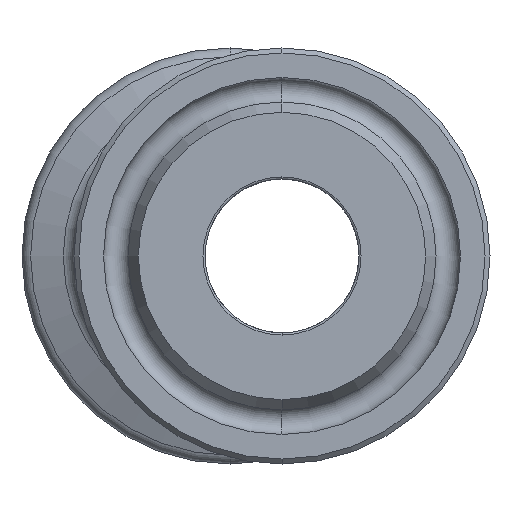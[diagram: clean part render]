
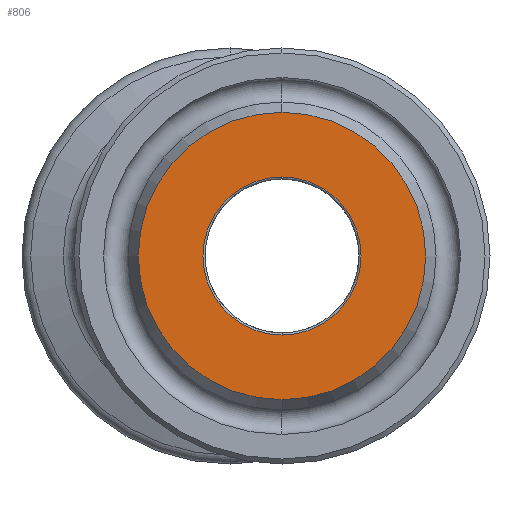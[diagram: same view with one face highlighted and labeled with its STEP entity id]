
A CAD part, left-side view. The second image highlights one B-rep face of the part: STEP entity #806.
In plain terms, the highlighted planar face has unit normal (-1, 0, 0).
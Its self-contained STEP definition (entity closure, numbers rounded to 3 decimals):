
#70 = CARTESIAN_POINT ( 'NONE',  ( 0.8, -3.175, 0. ) ) ;
#82 = DIRECTION ( 'NONE',  ( 1., 0., 0. ) ) ;
#102 = DIRECTION ( 'NONE',  ( 1., 0., 0. ) ) ;
#117 = EDGE_CURVE ( 'NONE', #509, #1207, #2148, .T. ) ;
#190 = DIRECTION ( 'NONE',  ( 0., 0., -1. ) ) ;
#354 = AXIS2_PLACEMENT_3D ( 'NONE', #70, #82, #190 ) ;
#367 = CIRCLE ( 'NONE', #834, 8.772 ) ;
#373 = VERTEX_POINT ( 'NONE', #543 ) ;
#407 = DIRECTION ( 'NONE',  ( 1., 0., 0. ) ) ;
#460 = EDGE_LOOP ( 'NONE', ( #1199, #2049 ) ) ;
#509 = VERTEX_POINT ( 'NONE', #786 ) ;
#543 = CARTESIAN_POINT ( 'NONE',  ( 0.8, -3.175, 4.827 ) ) ;
#781 = CIRCLE ( 'NONE', #1165, 4.827 ) ;
#786 = CARTESIAN_POINT ( 'NONE',  ( 0.8, -3.175, 8.772 ) ) ;
#806 = ADVANCED_FACE ( 'NONE', ( #1563, #1189 ), #1427, .F. ) ;
#829 = DIRECTION ( 'NONE',  ( 1., 0., 0. ) ) ;
#834 = AXIS2_PLACEMENT_3D ( 'NONE', #960, #2096, #1135 ) ;
#932 = EDGE_CURVE ( 'NONE', #373, #1872, #1077, .T. ) ;
#960 = CARTESIAN_POINT ( 'NONE',  ( 0.8, -3.175, 0. ) ) ;
#978 = EDGE_LOOP ( 'NONE', ( #1682, #2000 ) ) ;
#1019 = AXIS2_PLACEMENT_3D ( 'NONE', #1094, #407, #1587 ) ;
#1077 = CIRCLE ( 'NONE', #1360, 4.827 ) ;
#1094 = CARTESIAN_POINT ( 'NONE',  ( 0.8, 5.597, 0. ) ) ;
#1135 = DIRECTION ( 'NONE',  ( 0., 0., -1. ) ) ;
#1141 = CARTESIAN_POINT ( 'NONE',  ( 0.8, -3.175, 0. ) ) ;
#1165 = AXIS2_PLACEMENT_3D ( 'NONE', #1141, #102, #1309 ) ;
#1189 = FACE_OUTER_BOUND ( 'NONE', #460, .T. ) ;
#1199 = ORIENTED_EDGE ( 'NONE', *, *, #1747, .F. ) ;
#1207 = VERTEX_POINT ( 'NONE', #1452 ) ;
#1309 = DIRECTION ( 'NONE',  ( 0., 0., -1. ) ) ;
#1360 = AXIS2_PLACEMENT_3D ( 'NONE', #1810, #829, #1968 ) ;
#1427 = PLANE ( 'NONE',  #1019 ) ;
#1452 = CARTESIAN_POINT ( 'NONE',  ( 0.8, -3.175, -8.772 ) ) ;
#1563 = FACE_BOUND ( 'NONE', #978, .T. ) ;
#1587 = DIRECTION ( 'NONE',  ( 0., 0., -1. ) ) ;
#1682 = ORIENTED_EDGE ( 'NONE', *, *, #1833, .T. ) ;
#1747 = EDGE_CURVE ( 'NONE', #1207, #509, #367, .T. ) ;
#1810 = CARTESIAN_POINT ( 'NONE',  ( 0.8, -3.175, 0. ) ) ;
#1833 = EDGE_CURVE ( 'NONE', #1872, #373, #781, .T. ) ;
#1872 = VERTEX_POINT ( 'NONE', #2113 ) ;
#1968 = DIRECTION ( 'NONE',  ( 0., 0., -1. ) ) ;
#2000 = ORIENTED_EDGE ( 'NONE', *, *, #932, .T. ) ;
#2049 = ORIENTED_EDGE ( 'NONE', *, *, #117, .F. ) ;
#2096 = DIRECTION ( 'NONE',  ( 1., 0., 0. ) ) ;
#2113 = CARTESIAN_POINT ( 'NONE',  ( 0.8, -3.175, -4.827 ) ) ;
#2148 = CIRCLE ( 'NONE', #354, 8.772 ) ;
